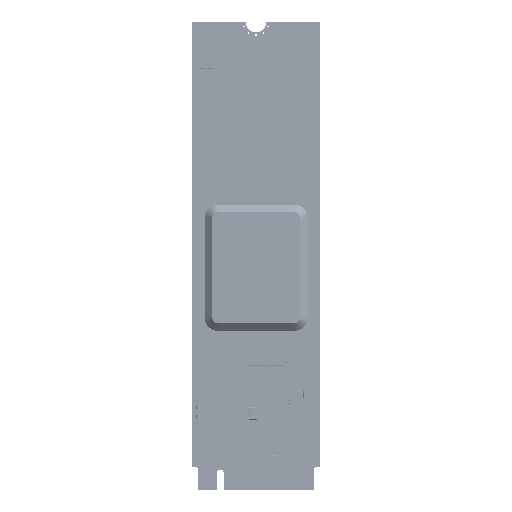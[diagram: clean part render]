
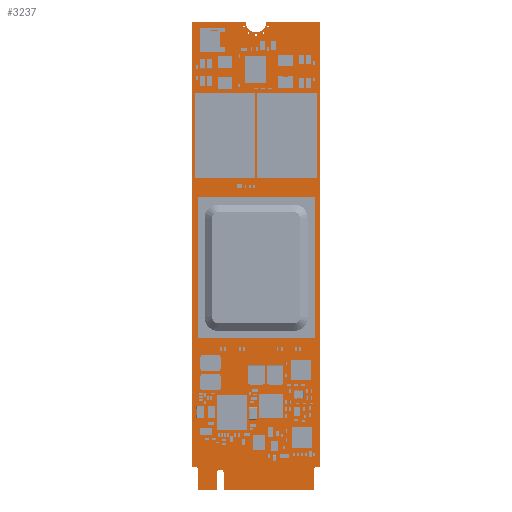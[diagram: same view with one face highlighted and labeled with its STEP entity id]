
A CAD part, top view. The second image highlights one B-rep face of the part: STEP entity #3237.
In plain terms, the highlighted planar face has unit normal (0, 0, 1).
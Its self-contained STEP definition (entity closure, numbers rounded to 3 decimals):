
#2536 = VERTEX_POINT('',#2537);
#2537 = CARTESIAN_POINT('',(0.,0.,0.836));
#2543 = EDGE_CURVE('',#2536,#2544,#2546,.T.);
#2544 = VERTEX_POINT('',#2545);
#2545 = CARTESIAN_POINT('',(3.2,0.,0.836));
#2546 = LINE('',#2547,#2548);
#2547 = CARTESIAN_POINT('',(0.,0.,0.836));
#2548 = VECTOR('',#2549,1.);
#2549 = DIRECTION('',(1.,0.,0.));
#2574 = EDGE_CURVE('',#2544,#2575,#2577,.T.);
#2575 = VERTEX_POINT('',#2576);
#2576 = CARTESIAN_POINT('',(3.2,2.9,0.836));
#2577 = LINE('',#2578,#2579);
#2578 = CARTESIAN_POINT('',(3.2,0.,0.836));
#2579 = VECTOR('',#2580,1.);
#2580 = DIRECTION('',(0.,1.,0.));
#2605 = EDGE_CURVE('',#2575,#2606,#2608,.T.);
#2606 = VERTEX_POINT('',#2607);
#2607 = CARTESIAN_POINT('',(4.4,2.9,0.836));
#2608 = CIRCLE('',#2609,0.6);
#2609 = AXIS2_PLACEMENT_3D('',#2610,#2611,#2612);
#2610 = CARTESIAN_POINT('',(3.8,2.9,0.836));
#2611 = DIRECTION('',(0.,0.,-1.));
#2612 = DIRECTION('',(-1.,0.,-0.));
#2638 = EDGE_CURVE('',#2606,#2639,#2641,.T.);
#2639 = VERTEX_POINT('',#2640);
#2640 = CARTESIAN_POINT('',(4.4,0.,0.836));
#2641 = LINE('',#2642,#2643);
#2642 = CARTESIAN_POINT('',(4.4,2.9,0.836));
#2643 = VECTOR('',#2644,1.);
#2644 = DIRECTION('',(0.,-1.,0.));
#2669 = EDGE_CURVE('',#2639,#2670,#2672,.T.);
#2670 = VERTEX_POINT('',#2671);
#2671 = CARTESIAN_POINT('',(19.85,0.,0.836));
#2672 = LINE('',#2673,#2674);
#2673 = CARTESIAN_POINT('',(4.4,0.,0.836));
#2674 = VECTOR('',#2675,1.);
#2675 = DIRECTION('',(1.,0.,0.));
#2700 = EDGE_CURVE('',#2670,#2701,#2703,.T.);
#2701 = VERTEX_POINT('',#2702);
#2702 = CARTESIAN_POINT('',(19.85,3.5,0.836));
#2703 = LINE('',#2704,#2705);
#2704 = CARTESIAN_POINT('',(19.85,0.,0.836));
#2705 = VECTOR('',#2706,1.);
#2706 = DIRECTION('',(0.,1.,0.));
#2731 = EDGE_CURVE('',#2701,#2732,#2734,.T.);
#2732 = VERTEX_POINT('',#2733);
#2733 = CARTESIAN_POINT('',(20.35,4.,0.836));
#2734 = CIRCLE('',#2735,0.498);
#2735 = AXIS2_PLACEMENT_3D('',#2736,#2737,#2738);
#2736 = CARTESIAN_POINT('',(20.348,3.502,0.836));
#2737 = DIRECTION('',(0.,0.,-1.));
#2738 = DIRECTION('',(-1.,-0.003,-0.));
#2764 = EDGE_CURVE('',#2732,#2765,#2767,.T.);
#2765 = VERTEX_POINT('',#2766);
#2766 = CARTESIAN_POINT('',(20.925,4.,0.836));
#2767 = LINE('',#2768,#2769);
#2768 = CARTESIAN_POINT('',(20.35,4.,0.836));
#2769 = VECTOR('',#2770,1.);
#2770 = DIRECTION('',(1.,0.,0.));
#2795 = EDGE_CURVE('',#2765,#2796,#2798,.T.);
#2796 = VERTEX_POINT('',#2797);
#2797 = CARTESIAN_POINT('',(20.925,80.,0.836));
#2798 = LINE('',#2799,#2800);
#2799 = CARTESIAN_POINT('',(20.925,4.,0.836));
#2800 = VECTOR('',#2801,1.);
#2801 = DIRECTION('',(0.,1.,0.));
#2826 = EDGE_CURVE('',#2796,#2827,#2829,.T.);
#2827 = VERTEX_POINT('',#2828);
#2828 = CARTESIAN_POINT('',(11.675,80.,0.836));
#2829 = LINE('',#2830,#2831);
#2830 = CARTESIAN_POINT('',(20.925,80.,0.836));
#2831 = VECTOR('',#2832,1.);
#2832 = DIRECTION('',(-1.,0.,0.));
#2857 = EDGE_CURVE('',#2827,#2858,#2860,.T.);
#2858 = VERTEX_POINT('',#2859);
#2859 = CARTESIAN_POINT('',(8.175,80.,0.836));
#2860 = CIRCLE('',#2861,1.75);
#2861 = AXIS2_PLACEMENT_3D('',#2862,#2863,#2864);
#2862 = CARTESIAN_POINT('',(9.925,80.,0.836));
#2863 = DIRECTION('',(0.,0.,-1.));
#2864 = DIRECTION('',(1.,0.,0.));
#2890 = EDGE_CURVE('',#2858,#2891,#2893,.T.);
#2891 = VERTEX_POINT('',#2892);
#2892 = CARTESIAN_POINT('',(-1.075,80.,0.836));
#2893 = LINE('',#2894,#2895);
#2894 = CARTESIAN_POINT('',(8.175,80.,0.836));
#2895 = VECTOR('',#2896,1.);
#2896 = DIRECTION('',(-1.,0.,0.));
#2921 = EDGE_CURVE('',#2891,#2922,#2924,.T.);
#2922 = VERTEX_POINT('',#2923);
#2923 = CARTESIAN_POINT('',(-1.075,4.,0.836));
#2924 = LINE('',#2925,#2926);
#2925 = CARTESIAN_POINT('',(-1.075,80.,0.836));
#2926 = VECTOR('',#2927,1.);
#2927 = DIRECTION('',(0.,-1.,0.));
#2952 = EDGE_CURVE('',#2922,#2953,#2955,.T.);
#2953 = VERTEX_POINT('',#2954);
#2954 = CARTESIAN_POINT('',(-0.5,4.,0.836));
#2955 = LINE('',#2956,#2957);
#2956 = CARTESIAN_POINT('',(-1.075,4.,0.836));
#2957 = VECTOR('',#2958,1.);
#2958 = DIRECTION('',(1.,0.,0.));
#2983 = EDGE_CURVE('',#2953,#2984,#2986,.T.);
#2984 = VERTEX_POINT('',#2985);
#2985 = CARTESIAN_POINT('',(0.,3.5,0.836));
#2986 = CIRCLE('',#2987,0.498);
#2987 = AXIS2_PLACEMENT_3D('',#2988,#2989,#2990);
#2988 = CARTESIAN_POINT('',(-0.498,3.502,0.836));
#2989 = DIRECTION('',(0.,0.,-1.));
#2990 = DIRECTION('',(-0.003,1.,0.));
#3016 = EDGE_CURVE('',#2984,#2536,#3017,.T.);
#3017 = LINE('',#3018,#3019);
#3018 = CARTESIAN_POINT('',(0.,3.5,0.836));
#3019 = VECTOR('',#3020,1.);
#3020 = DIRECTION('',(0.,-1.,0.));
#3040 = VERTEX_POINT('',#3041);
#3041 = CARTESIAN_POINT('',(8.799,78.177,0.836));
#3047 = EDGE_CURVE('',#3040,#3040,#3048,.T.);
#3048 = CIRCLE('',#3049,0.15);
#3049 = AXIS2_PLACEMENT_3D('',#3050,#3051,#3052);
#3050 = CARTESIAN_POINT('',(8.649,78.177,0.836));
#3051 = DIRECTION('',(0.,0.,1.));
#3052 = DIRECTION('',(1.,0.,-0.));
#3073 = VERTEX_POINT('',#3074);
#3074 = CARTESIAN_POINT('',(7.984,79.239,0.836));
#3080 = EDGE_CURVE('',#3073,#3073,#3081,.T.);
#3081 = CIRCLE('',#3082,0.15);
#3082 = AXIS2_PLACEMENT_3D('',#3083,#3084,#3085);
#3083 = CARTESIAN_POINT('',(7.834,79.239,0.836));
#3084 = DIRECTION('',(0.,0.,1.));
#3085 = DIRECTION('',(1.,0.,-0.));
#3106 = VERTEX_POINT('',#3107);
#3107 = CARTESIAN_POINT('',(10.075,77.775,0.836));
#3113 = EDGE_CURVE('',#3106,#3106,#3114,.T.);
#3114 = CIRCLE('',#3115,0.15);
#3115 = AXIS2_PLACEMENT_3D('',#3116,#3117,#3118);
#3116 = CARTESIAN_POINT('',(9.925,77.775,0.836));
#3117 = DIRECTION('',(0.,0.,1.));
#3118 = DIRECTION('',(1.,0.,-0.));
#3139 = VERTEX_POINT('',#3140);
#3140 = CARTESIAN_POINT('',(11.351,78.177,0.836));
#3146 = EDGE_CURVE('',#3139,#3139,#3147,.T.);
#3147 = CIRCLE('',#3148,0.15);
#3148 = AXIS2_PLACEMENT_3D('',#3149,#3150,#3151);
#3149 = CARTESIAN_POINT('',(11.201,78.177,0.836));
#3150 = DIRECTION('',(0.,0.,1.));
#3151 = DIRECTION('',(1.,0.,-0.));
#3172 = VERTEX_POINT('',#3173);
#3173 = CARTESIAN_POINT('',(12.166,79.239,0.836));
#3179 = EDGE_CURVE('',#3172,#3172,#3180,.T.);
#3180 = CIRCLE('',#3181,0.15);
#3181 = AXIS2_PLACEMENT_3D('',#3182,#3183,#3184);
#3182 = CARTESIAN_POINT('',(12.016,79.239,0.836));
#3183 = DIRECTION('',(0.,0.,1.));
#3184 = DIRECTION('',(1.,0.,-0.));
#3237 = ADVANCED_FACE('',(#3238,#3256,#3259,#3262,#3265,#3268),#3271,.T.
  );
#3238 = FACE_BOUND('',#3239,.T.);
#3239 = EDGE_LOOP('',(#3240,#3241,#3242,#3243,#3244,#3245,#3246,#3247,
    #3248,#3249,#3250,#3251,#3252,#3253,#3254,#3255));
#3240 = ORIENTED_EDGE('',*,*,#2543,.T.);
#3241 = ORIENTED_EDGE('',*,*,#2574,.T.);
#3242 = ORIENTED_EDGE('',*,*,#2605,.T.);
#3243 = ORIENTED_EDGE('',*,*,#2638,.T.);
#3244 = ORIENTED_EDGE('',*,*,#2669,.T.);
#3245 = ORIENTED_EDGE('',*,*,#2700,.T.);
#3246 = ORIENTED_EDGE('',*,*,#2731,.T.);
#3247 = ORIENTED_EDGE('',*,*,#2764,.T.);
#3248 = ORIENTED_EDGE('',*,*,#2795,.T.);
#3249 = ORIENTED_EDGE('',*,*,#2826,.T.);
#3250 = ORIENTED_EDGE('',*,*,#2857,.T.);
#3251 = ORIENTED_EDGE('',*,*,#2890,.T.);
#3252 = ORIENTED_EDGE('',*,*,#2921,.T.);
#3253 = ORIENTED_EDGE('',*,*,#2952,.T.);
#3254 = ORIENTED_EDGE('',*,*,#2983,.T.);
#3255 = ORIENTED_EDGE('',*,*,#3016,.T.);
#3256 = FACE_BOUND('',#3257,.T.);
#3257 = EDGE_LOOP('',(#3258));
#3258 = ORIENTED_EDGE('',*,*,#3047,.F.);
#3259 = FACE_BOUND('',#3260,.T.);
#3260 = EDGE_LOOP('',(#3261));
#3261 = ORIENTED_EDGE('',*,*,#3080,.F.);
#3262 = FACE_BOUND('',#3263,.T.);
#3263 = EDGE_LOOP('',(#3264));
#3264 = ORIENTED_EDGE('',*,*,#3113,.F.);
#3265 = FACE_BOUND('',#3266,.T.);
#3266 = EDGE_LOOP('',(#3267));
#3267 = ORIENTED_EDGE('',*,*,#3146,.F.);
#3268 = FACE_BOUND('',#3269,.T.);
#3269 = EDGE_LOOP('',(#3270));
#3270 = ORIENTED_EDGE('',*,*,#3179,.F.);
#3271 = PLANE('',#3272);
#3272 = AXIS2_PLACEMENT_3D('',#3273,#3274,#3275);
#3273 = CARTESIAN_POINT('',(9.74,39.28,0.836));
#3274 = DIRECTION('',(0.,0.,1.));
#3275 = DIRECTION('',(1.,0.,-0.));
